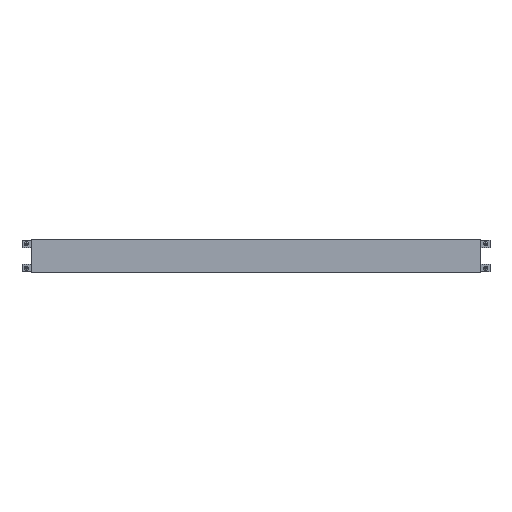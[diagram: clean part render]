
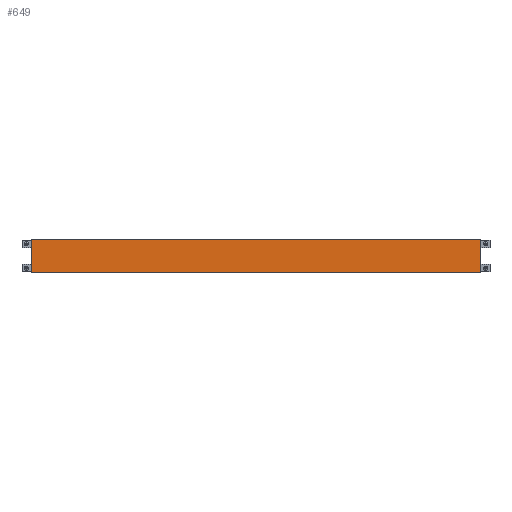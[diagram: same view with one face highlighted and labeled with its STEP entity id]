
A CAD part, top view. The second image highlights one B-rep face of the part: STEP entity #649.
In plain terms, the highlighted planar face has unit normal (0, 0, 1).
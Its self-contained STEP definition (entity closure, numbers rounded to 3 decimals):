
#328 = VERTEX_POINT('',#329);
#329 = CARTESIAN_POINT('',(516.5,-39.,0.));
#335 = EDGE_CURVE('',#328,#336,#338,.T.);
#336 = VERTEX_POINT('',#337);
#337 = CARTESIAN_POINT('',(-516.5,-39.,-0.));
#338 = LINE('',#339,#340);
#339 = CARTESIAN_POINT('',(0.,-39.,-0.));
#340 = VECTOR('',#341,1.);
#341 = DIRECTION('',(-1.,-0.,-0.));
#516 = VERTEX_POINT('',#517);
#517 = CARTESIAN_POINT('',(-516.5,39.,0.));
#523 = EDGE_CURVE('',#516,#524,#526,.T.);
#524 = VERTEX_POINT('',#525);
#525 = CARTESIAN_POINT('',(516.5,39.,0.));
#526 = LINE('',#527,#528);
#527 = CARTESIAN_POINT('',(0.,39.,0.));
#528 = VECTOR('',#529,1.);
#529 = DIRECTION('',(1.,-0.,-0.));
#649 = ADVANCED_FACE('',(#650),#698,.F.);
#650 = FACE_BOUND('',#651,.T.);
#651 = EDGE_LOOP('',(#652,#662,#668,#669,#677,#685,#691,#692));
#652 = ORIENTED_EDGE('',*,*,#653,.T.);
#653 = EDGE_CURVE('',#654,#656,#658,.T.);
#654 = VERTEX_POINT('',#655);
#655 = CARTESIAN_POINT('',(-516.5,36.4,0.));
#656 = VERTEX_POINT('',#657);
#657 = CARTESIAN_POINT('',(-516.5,-36.4,0.));
#658 = LINE('',#659,#660);
#659 = CARTESIAN_POINT('',(-516.5,-39.,0.));
#660 = VECTOR('',#661,1.);
#661 = DIRECTION('',(-0.,-1.,-0.));
#662 = ORIENTED_EDGE('',*,*,#663,.T.);
#663 = EDGE_CURVE('',#656,#336,#664,.T.);
#664 = LINE('',#665,#666);
#665 = CARTESIAN_POINT('',(-516.5,-36.4,0.));
#666 = VECTOR('',#667,1.);
#667 = DIRECTION('',(-0.,-1.,-0.));
#668 = ORIENTED_EDGE('',*,*,#335,.F.);
#669 = ORIENTED_EDGE('',*,*,#670,.F.);
#670 = EDGE_CURVE('',#671,#328,#673,.T.);
#671 = VERTEX_POINT('',#672);
#672 = CARTESIAN_POINT('',(516.5,-36.4,0.));
#673 = LINE('',#674,#675);
#674 = CARTESIAN_POINT('',(516.5,0.,0.));
#675 = VECTOR('',#676,1.);
#676 = DIRECTION('',(-0.,-1.,0.));
#677 = ORIENTED_EDGE('',*,*,#678,.T.);
#678 = EDGE_CURVE('',#671,#679,#681,.T.);
#679 = VERTEX_POINT('',#680);
#680 = CARTESIAN_POINT('',(516.5,36.4,0.));
#681 = LINE('',#682,#683);
#682 = CARTESIAN_POINT('',(516.5,-39.,0.));
#683 = VECTOR('',#684,1.);
#684 = DIRECTION('',(0.,1.,0.));
#685 = ORIENTED_EDGE('',*,*,#686,.T.);
#686 = EDGE_CURVE('',#679,#524,#687,.T.);
#687 = LINE('',#688,#689);
#688 = CARTESIAN_POINT('',(516.5,36.4,0.));
#689 = VECTOR('',#690,1.);
#690 = DIRECTION('',(-0.,1.,-0.));
#691 = ORIENTED_EDGE('',*,*,#523,.F.);
#692 = ORIENTED_EDGE('',*,*,#693,.F.);
#693 = EDGE_CURVE('',#654,#516,#694,.T.);
#694 = LINE('',#695,#696);
#695 = CARTESIAN_POINT('',(-516.5,0.,0.));
#696 = VECTOR('',#697,1.);
#697 = DIRECTION('',(0.,1.,0.));
#698 = PLANE('',#699);
#699 = AXIS2_PLACEMENT_3D('',#700,#701,#702);
#700 = CARTESIAN_POINT('',(0.,0.,0.));
#701 = DIRECTION('',(0.,0.,-1.));
#702 = DIRECTION('',(-1.,0.,-0.));
